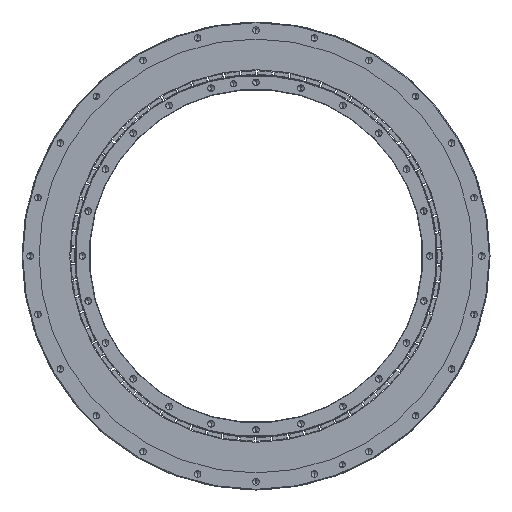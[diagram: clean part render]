
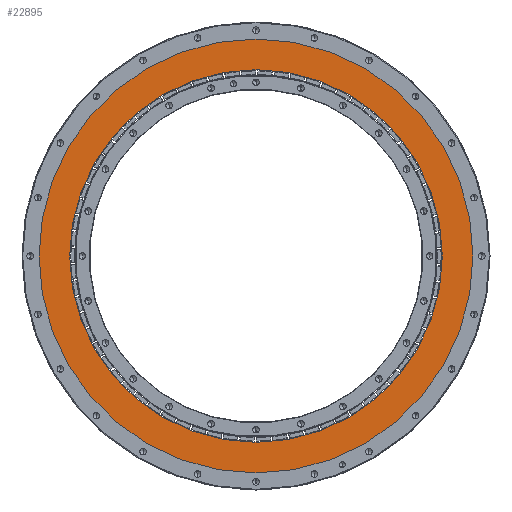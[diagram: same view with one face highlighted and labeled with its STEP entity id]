
A CAD part, front view. The second image highlights one B-rep face of the part: STEP entity #22895.
In plain terms, the highlighted planar face has unit normal (0, -1, 0).
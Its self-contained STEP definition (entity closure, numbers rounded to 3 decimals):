
#81 = EDGE_CURVE ( 'NONE', #38931, #8759, #6326, .T. ) ;
#229 = CARTESIAN_POINT ( 'NONE',  ( 0., -79., 0. ) ) ;
#2447 = ORIENTED_EDGE ( 'NONE', *, *, #11513, .F. ) ;
#3592 = DIRECTION ( 'NONE',  ( 0., 0., -1. ) ) ;
#4914 = ORIENTED_EDGE ( 'NONE', *, *, #27137, .T. ) ;
#5642 = CIRCLE ( 'NONE', #39056, 224.905 ) ;
#6123 = CARTESIAN_POINT ( 'NONE',  ( 0., -79., -193.1 ) ) ;
#6232 = DIRECTION ( 'NONE',  ( 0., -1., 0. ) ) ;
#6326 = CIRCLE ( 'NONE', #27327, 224.905 ) ;
#7197 = ORIENTED_EDGE ( 'NONE', *, *, #22765, .F. ) ;
#7825 = DIRECTION ( 'NONE',  ( 0., -1., 0. ) ) ;
#8509 = AXIS2_PLACEMENT_3D ( 'NONE', #9444, #32665, #10085 ) ;
#8759 = VERTEX_POINT ( 'NONE', #37497 ) ;
#9444 = CARTESIAN_POINT ( 'NONE',  ( 0., -79., 0. ) ) ;
#10085 = DIRECTION ( 'NONE',  ( 0., 0., -1. ) ) ;
#11343 = FACE_OUTER_BOUND ( 'NONE', #25074, .T. ) ;
#11513 = EDGE_CURVE ( 'NONE', #30114, #31965, #31584, .T. ) ;
#12199 = DIRECTION ( 'NONE',  ( 0., 0., -1. ) ) ;
#12600 = DIRECTION ( 'NONE',  ( 0., 0., -1. ) ) ;
#15648 = ORIENTED_EDGE ( 'NONE', *, *, #81, .T. ) ;
#16519 = CIRCLE ( 'NONE', #24916, 193.1 ) ;
#18778 = PLANE ( 'NONE',  #25631 ) ;
#20219 = CARTESIAN_POINT ( 'NONE',  ( 0., -79., 193.1 ) ) ;
#20453 = DIRECTION ( 'NONE',  ( 0., -1., 0. ) ) ;
#20775 = EDGE_LOOP ( 'NONE', ( #2447, #7197 ) ) ;
#22765 = EDGE_CURVE ( 'NONE', #31965, #30114, #16519, .T. ) ;
#22895 = ADVANCED_FACE ( 'NONE', ( #38634, #11343 ), #18778, .T. ) ;
#24916 = AXIS2_PLACEMENT_3D ( 'NONE', #229, #40628, #37370 ) ;
#25074 = EDGE_LOOP ( 'NONE', ( #15648, #4914 ) ) ;
#25631 = AXIS2_PLACEMENT_3D ( 'NONE', #42121, #7825, #12199 ) ;
#27137 = EDGE_CURVE ( 'NONE', #8759, #38931, #5642, .T. ) ;
#27327 = AXIS2_PLACEMENT_3D ( 'NONE', #42527, #6232, #12600 ) ;
#30114 = VERTEX_POINT ( 'NONE', #6123 ) ;
#31584 = CIRCLE ( 'NONE', #8509, 193.1 ) ;
#31965 = VERTEX_POINT ( 'NONE', #20219 ) ;
#32665 = DIRECTION ( 'NONE',  ( 0., -1., 0. ) ) ;
#37046 = CARTESIAN_POINT ( 'NONE',  ( 0., -79., 0. ) ) ;
#37370 = DIRECTION ( 'NONE',  ( 0., 0., -1. ) ) ;
#37497 = CARTESIAN_POINT ( 'NONE',  ( 0., -79., 224.905 ) ) ;
#37785 = CARTESIAN_POINT ( 'NONE',  ( 0., -79., -224.905 ) ) ;
#38634 = FACE_BOUND ( 'NONE', #20775, .T. ) ;
#38931 = VERTEX_POINT ( 'NONE', #37785 ) ;
#39056 = AXIS2_PLACEMENT_3D ( 'NONE', #37046, #20453, #3592 ) ;
#40628 = DIRECTION ( 'NONE',  ( 0., -1., 0. ) ) ;
#42121 = CARTESIAN_POINT ( 'NONE',  ( 0., -79., 0. ) ) ;
#42527 = CARTESIAN_POINT ( 'NONE',  ( 0., -79., 0. ) ) ;
